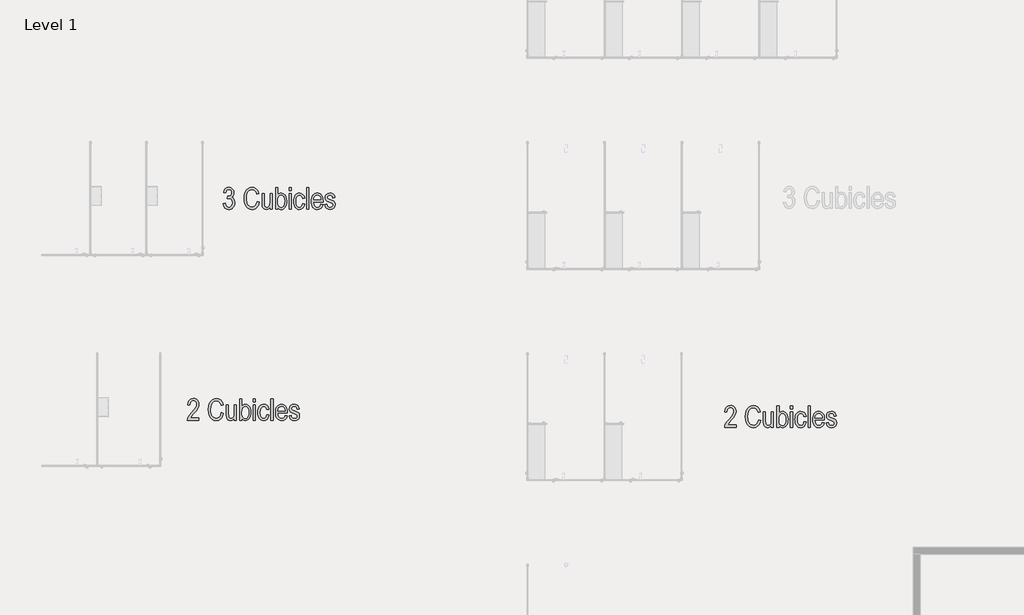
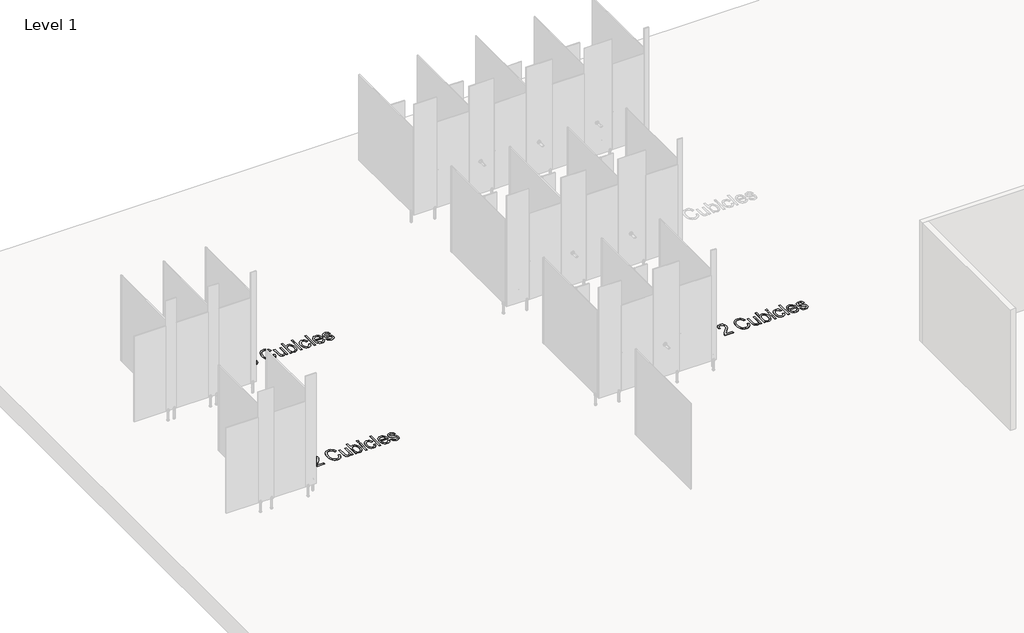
# One storey, part 14 of 21: 3 proxies.
"""IFC4 building model written with IfcOpenShell, lengths in millimetres."""

from ifc_helpers import new_model, si_unit, origin, origin_with_axes, place, context, project, spatial, polyline, outline, extrude, element, save

model = new_model("IFC4")

# Units and contexts
model_context = context("Model", 3, world=origin())
ifc_project = project(units=[si_unit("LENGTHUNIT", "METRE", prefix="MILLI")], contexts=[model_context])

# Site, building, storey
site = spatial("IfcSite", under=ifc_project)
building = spatial("IfcBuilding", under=site)
storey = spatial("IfcBuildingStorey", under=building, Name="Level 1", Elevation=0.0)

# Proxies
placement = place(None, origin())
element("IfcBuildingElementProxy", 1, Name="Arial Narrow-300mm", ObjectType="Arial Narrow-300mm", at=placement, inside=storey, context=model_context, shape_type="SweptSolid", body=[
    extrude(outline(polyline([(-24559.7465559, 26860.2162992), (-24559.7465559, 26825.7607897), (-24722.1796719, 26825.7607897), (-24719.1994241, 26849.0547907), (-24709.028127, 26874.9444913), (-24689.5507659, 26904.6027632), (-24658.6523263, 26939.2024782), (-24623.2066055, 26978.2725648), (-24602.546759, 27007.3444009), (-24592.5965771, 27030.5903333), (-24589.2798497, 27052.1827089), (-24592.7696237, 27073.9481312), (-24603.2389456, 27091.2527955), (-24618.8227572, 27102.5585096), (-24637.6560003, 27106.3270809), (-24657.6140465, 27102.1931889), (-24673.6497021, 27089.7915128), (-24684.2055473, 27069.6604199), (-24687.7241624, 27042.3382777), (-24717.2574562, 27047.2604933), (-24709.4511299, 27085.8787359), (-24702.1735571, 27101.0996302), (-24692.6463781, 27113.5950399), (-24681.1531968, 27123.3361239), (-24667.9776177, 27130.294041), (-24636.5792656, 27135.8603747), (-24618.7746887, 27134.2236419), (-24603.2774004, 27129.3134434), (-24590.0874007, 27121.1297792), (-24579.2046896, 27109.6726493), (-24564.6110893, 27081.706389), (-24559.7465559, 27050.1830588), (-24563.4670587, 27021.1977461), (-24574.6285672, 26993.4622146), (-24596.1728743, 26961.6889281), (-24631.041773, 26920.5903503), (-24665.3050084, 26881.1741704), (-24677.8797311, 26860.2162992), (-24559.7465559, 26860.2162992)])), origin_with_axes(), (0.0, 0.0, 1.0), 5.0),
    extrude(outline(polyline([(-24239.8025396, 26934.0495337), (-24210.2692458, 26924.2051024), (-24225.0935749, 26878.7419037), (-24235.5484763, 26860.9637645), (-24248.0318689, 26846.4879321), (-24262.2649553, 26835.266338), (-24277.9689382, 26827.2509136), (-24295.1438176, 26822.441659), (-24313.7895934, 26820.8385741), (-24345.3225373, 26825.0686031), (-24371.9332656, 26837.7586903), (-24393.8909619, 26859.80291), (-24411.4648099, 26892.0953364), (-24423.0012528, 26932.8862757), (-24426.8467338, 26980.4260341), (-24423.0108665, 27026.8506031), (-24411.5032647, 27065.5265279), (-24393.4487316, 27096.0692604), (-24369.9720703, 27118.0942527), (-24342.2557662, 27131.4188442), (-24311.4823048, 27135.8603747), (-24278.6034426, 27130.2363588), (-24250.7237056, 27113.3643111), (-24229.1505574, 27085.5903248), (-24215.1914615, 27047.2604933), (-24244.7247553, 27037.416062), (-24255.3094416, 27065.4111634), (-24270.1433844, 27085.4076645), (-24289.2265837, 27097.4055651), (-24312.5590395, 27101.4048653), (-24336.2375885, 27098.2131161), (-24356.5128869, 27088.6378685), (-24373.2215017, 27072.3041881), (-24386.2, 27048.8371405), (-24394.53508, 27018.2174983), (-24397.31344, 26980.4260341), (-24395.9002257, 26951.1138555), (-24391.6605829, 26925.70484), (-24384.5945117, 26904.1989877), (-24374.7020119, 26886.5962986), (-24362.4685756, 26872.9015795), (-24348.3796947, 26863.1196373), (-24332.4353692, 26857.250472), (-24314.6355992, 26855.2940835), (-24288.7843534, 26860.1778443), (-24266.7593612, 26874.8291268), (-24249.9642231, 26899.4017502), (-24239.8025396, 26934.0495337)])), origin_with_axes(), (0.0, 0.0, 1.0), 5.0),
    extrude(outline(polyline([(-24057.6805611, 26825.7607897), (-24057.6805611, 26855.6786316), (-24068.6401819, 26840.4601407), (-24081.3687239, 26829.5678159), (-24095.8661871, 26823.0208845), (-24112.1325716, 26820.8385741), (-24130.9562009, 26823.7322985), (-24146.8188099, 26832.4134718), (-24158.8167105, 26845.5265619), (-24166.0462147, 26861.7160367), (-24170.8915207, 26910.0537325), (-24170.8915207, 27047.2604933), (-24141.3582269, 27047.2604933), (-24141.3582269, 26922.66691), (-24138.0126585, 26876.2519548), (-24133.2346484, 26865.6864958), (-24125.591755, 26857.4475529), (-24115.8819155, 26852.1407891), (-24104.9030674, 26850.3718679), (-24085.2911145, 26854.9672176), (-24069.5246425, 26868.7532669), (-24060.6415815, 26891.2108757), (-24057.6805611, 26926.8969391), (-24057.6805611, 27047.2604933), (-24028.1472673, 27047.2604933), (-24028.1472673, 26825.7607897), (-24057.6805611, 26825.7607897)])), origin_with_axes(), (0.0, 0.0, 1.0), 5.0),
    extrude(outline(polyline([(-23949.3918172, 26825.7607897), (-23978.925111, 26825.7607897), (-23978.925111, 27130.9381591), (-23949.3918172, 27130.9381591), (-23949.3918172, 27023.6492402), (-23938.8263582, 27036.2047355), (-23926.9726631, 27045.1070239), (-23913.7538223, 27050.4137877), (-23899.0929261, 27052.1827089), (-23878.6061263, 27049.0005734), (-23860.0612944, 27039.4541669), (-23844.2467539, 27023.4473524), (-23831.9508285, 27000.8839929), (-23824.0483651, 26972.2928419), (-23821.4142107, 26938.2026531), (-23822.8778968, 26911.6640276), (-23827.2689554, 26888.3459924), (-23834.5873864, 26868.2485475), (-23844.8331897, 26851.3716929), (-23857.0305747, 26838.0134534), (-23870.2037504, 26828.4718538), (-23884.3527169, 26822.746894), (-23899.4774742, 26820.8385741), (-23914.4363952, 26822.8189968), (-23927.7802141, 26828.7602649), (-23939.4512489, 26838.6046961), (-23949.3918172, 26852.2946084), (-23949.3918172, 26825.7607897)]), holes=[polyline([(-23949.3918172, 26938.2026531), (-23947.81517, 26907.679148), (-23943.0852284, 26885.9425668), (-23935.4711761, 26870.65678), (-23925.2421967, 26859.4856578), (-23913.0712495, 26852.6503154), (-23899.6312935, 26850.3718679), (-23881.6248289, 26855.793996), (-23865.7526062, 26872.0603805), (-23854.6487799, 26899.1325665), (-23850.9475045, 26936.9720992), (-23854.5141881, 26975.3211581), (-23865.2142388, 27001.9222727), (-23881.1056889, 27017.4676295), (-23900.2465704, 27022.6494151), (-23918.3587858, 27017.227287), (-23934.3944414, 27000.9609025), (-23945.6424732, 26974.4270838), (-23949.3918172, 26938.2026531)])]), origin_with_axes(), (0.0, 0.0, 1.0), 5.0),
    extrude(outline(polyline([(-23786.9587012, 27086.6382184), (-23786.9587012, 27130.9381591), (-23757.4254074, 27130.9381591), (-23757.4254074, 27086.6382184), (-23786.9587012, 27086.6382184)])), origin_with_axes(), (0.0, 0.0, 1.0), 5.0),
    extrude(outline(polyline([(-23786.9587012, 26825.7607897), (-23786.9587012, 27047.2604933), (-23757.4254074, 27047.2604933), (-23757.4254074, 26825.7607897), (-23786.9587012, 26825.7607897)])), origin_with_axes(), (0.0, 0.0, 1.0), 5.0),
    extrude(outline(polyline([(-23594.9922914, 26904.5162399), (-23565.4589976, 26899.5940242), (-23574.5439464, 26865.7634055), (-23591.4929038, 26841.0273491), (-23614.4600388, 26825.8857678), (-23641.5995207, 26820.8385741), (-23658.5773192, 26822.667581), (-23673.9784705, 26828.1546016), (-23687.8029745, 26837.299636), (-23700.0508314, 26850.1026842), (-23710.077923, 26866.4916434), (-23717.2401313, 26886.3944108), (-23721.5374563, 26909.8109865), (-23722.969898, 26936.7413704), (-23721.4941946, 26963.7823118), (-23717.0670847, 26987.2229217), (-23709.6885681, 27007.0632001), (-23699.3586448, 27023.3031469), (-23686.7118193, 27035.9379553), (-23672.3825959, 27044.9628184), (-23656.3709745, 27050.3777363), (-23638.6769552, 27052.1827089), (-23612.3834791, 27047.8757702), (-23590.5699883, 27034.9549542), (-23574.5054916, 27013.4202608), (-23565.4589976, 26983.27169), (-23594.9922914, 26978.3494744), (-23601.2988802, 26997.778767), (-23610.9894923, 27011.6128847), (-23623.5065328, 27019.8902825), (-23638.2924071, 27022.6494151), (-23660.0866705, 27017.5445391), (-23677.7854966, 27002.2299112), (-23689.5238273, 26975.8018433), (-23693.4366041, 26937.3566473), (-23689.7930109, 26897.7866482), (-23678.8622313, 26870.9067362), (-23662.2401398, 26855.505585), (-23641.5226111, 26850.3718679), (-23624.9774293, 26853.6693678), (-23611.0279471, 26863.5618676), (-23600.693217, 26880.3954605), (-23594.9922914, 26904.5162399)])), origin_with_axes(), (0.0, 0.0, 1.0), 5.0),
    extrude(outline(polyline([(-23535.9257038, 26825.7607897), (-23535.9257038, 27130.9381591), (-23506.39241, 27130.9381591), (-23506.39241, 26825.7607897), (-23535.9257038, 26825.7607897)])), origin_with_axes(), (0.0, 0.0, 1.0), 5.0),
    extrude(outline(polyline([(-23334.1148628, 26894.6718086), (-23304.581569, 26889.749593), (-23315.791146, 26859.7932963), (-23333.4226762, 26838.220148), (-23356.7647457, 26825.1839676), (-23385.1059404, 26820.8385741), (-23403.597897, 26822.667581), (-23420.234409, 26828.1546016), (-23435.0154765, 26837.299636), (-23447.9410993, 26850.1026842), (-23458.4392624, 26866.3618584), (-23465.9379503, 26885.8752709), (-23470.437163, 26908.6429216), (-23471.9369006, 26934.6648106), (-23470.4299527, 26961.6144219), (-23465.9091092, 26985.1655894), (-23458.3743699, 27005.3183131), (-23447.8257349, 27022.072593), (-23434.9698114, 27035.2457687), (-23420.5132064, 27044.6551799), (-23404.4559199, 27050.3008267), (-23386.797952, 27052.1827089), (-23369.8802392, 27050.3657192), (-23354.428616, 27044.9147499), (-23340.4430824, 27035.8298011), (-23327.9236384, 27023.1108728), (-23317.6105392, 27006.9502391), (-23310.2440397, 26987.5401739), (-23305.82414, 26964.8806773), (-23304.3508401, 26938.9717493), (-23304.581569, 26929.127318), (-23442.4036068, 26929.127318), (-23436.8565005, 26894.8640827), (-23424.2144818, 26870.2145497), (-23406.246472, 26855.3325383), (-23384.7213923, 26850.3718679), (-23367.9166405, 26853.1406142), (-23353.8806349, 26861.4468531), (-23342.6133757, 26875.2905845), (-23334.1148628, 26894.6718086)]), holes=[polyline([(-23440.4039567, 26958.6606119), (-23334.1148628, 26958.6606119), (-23338.4218015, 26983.9254218), (-23347.0356788, 27001.8838179), (-23364.6864365, 27017.4580158), (-23386.5672231, 27022.6494151), (-23406.6598612, 27018.323249), (-23423.56075, 27005.3447508), (-23435.4240588, 26985.0213839), (-23440.4039567, 26958.6606119)])]), origin_with_axes(), (0.0, 0.0, 1.0), 5.0),
    extrude(outline(polyline([(-23279.9704908, 26889.749593), (-23250.437197, 26894.6718086), (-23245.3996169, 26875.0983105), (-23235.6705501, 26861.2930338), (-23221.6345446, 26853.1021594), (-23203.6761485, 26850.3718679), (-23185.9484812, 26852.7945209), (-23172.7584815, 26860.0624799), (-23164.567607, 26871.0413281), (-23161.8373156, 26884.5966485), (-23164.0100123, 26895.9984995), (-23170.5281025, 26904.5162399), (-23201.138131, 26917.2063271), (-23249.0528238, 26936.5106415), (-23260.0412857, 26945.6724999), (-23268.2417739, 26957.4685128), (-23273.3466498, 26971.4949046), (-23275.0482752, 26987.3478999), (-23270.5394487, 27013.477943), (-23257.0129694, 27034.185858), (-23235.5071171, 27047.6834962), (-23207.0601717, 27052.1827089), (-23188.1980876, 27050.308037), (-23171.7586565, 27044.684021), (-23158.3090868, 27035.8874833), (-23148.416587, 27024.495246), (-23141.5620172, 27009.0748673), (-23137.2262374, 26988.1939057), (-23166.7595312, 26983.27169), (-23170.773252, 27000.4994448), (-23178.6612948, 27012.8049838), (-23190.4236597, 27020.1883073), (-23206.0603467, 27022.6494151), (-23223.4419206, 27020.553628), (-23235.7474597, 27014.2662666), (-23243.0731009, 27004.7102464), (-23245.5149814, 26992.8084828), (-23243.1500106, 26981.3297221), (-23236.0550982, 26972.581253), (-23202.2917753, 26958.6606119), (-23154.0309892, 26939.3947522), (-23144.8979719, 26930.9923763), (-23138.0337884, 26920.0135282), (-23133.7364634, 26906.6024133), (-23132.3040218, 26890.9032373), (-23137.2358511, 26862.58127), (-23152.0313391, 26840.2197981), (-23175.3445675, 26825.6838801), (-23205.8296178, 26820.8385741), (-23234.4303825, 26825.1455128), (-23256.3207829, 26838.0663288), (-23271.500819, 26859.6010222), (-23279.9704908, 26889.749593)])), origin_with_axes(), (0.0, 0.0, 1.0), 5.0),
])
element("IfcBuildingElementProxy", 2, Name="Arial Narrow-300mm", ObjectType="Arial Narrow-300mm", at=placement, inside=storey, context=model_context, shape_type="SweptSolid", body=[
    extrude(outline(polyline([(-24214.1796719, 29904.5162399), (-24184.6463781, 29909.4384555), (-24177.830263, 29883.5968234), (-24167.2263493, 29865.1385148), (-24152.8346368, 29854.0635296), (-24134.6551255, 29850.3718679), (-24114.4759641, 29854.9960587), (-24097.1616861, 29868.8686313), (-24085.2503088, 29890.1053), (-24081.2798497, 29916.821779), (-24084.9811251, 29941.8654737), (-24096.0849514, 29961.467813), (-24112.5724511, 29974.129059), (-24132.4247466, 29978.3494744), (-24155.1130842, 29974.196355), (-24150.1908686, 30007.8827682), (-24145.1148337, 30007.4213105), (-24123.3686389, 30010.9206982), (-24106.1216568, 30021.4188612), (-24094.8736249, 30037.7621553), (-24091.124281, 30058.7969362), (-24094.1718247, 30078.1493191), (-24103.3144556, 30093.2909004), (-24116.8409349, 30103.0680358), (-24133.0400235, 30106.3270809), (-24149.8351616, 30103.2699235), (-24163.7654164, 30094.0984514), (-24174.0040095, 30078.735755), (-24179.7241624, 30057.1049246), (-24209.2574562, 30062.0271402), (-24199.8552553, 30094.0888377), (-24183.1850953, 30117.209792), (-24160.7467139, 30131.197729), (-24134.0398486, 30135.8603747), (-24106.0928156, 30130.1786766), (-24082.7026777, 30113.1335822), (-24066.8689098, 30087.4746105), (-24061.5909872, 30055.9512803), (-24063.7252291, 30036.1470533), (-24070.1279549, 30018.7270245), (-24080.3569343, 30004.2487887), (-24093.9699369, 29993.2699405), (-24081.5971019, 29987.6843794), (-24071.5507829, 29979.3877543), (-24057.2071389, 29953.5461222), (-24051.7465559, 29917.3601463), (-24053.2823449, 29897.096865), (-24057.8897118, 29878.7611311), (-24065.5686566, 29862.3529445), (-24076.3191793, 29847.8723053), (-24089.2087508, 29836.0450479), (-24103.3048419, 29827.5970069), (-24118.6074528, 29822.5281823), (-24135.1165832, 29820.8385741), (-24164.4672167, 29826.5106585), (-24188.9917715, 29843.5269118), (-24206.3445044, 29870.1184126), (-24214.1796719, 29904.5162399)])), origin_with_axes(), (0.0, 0.0, 1.0), 5.0),
    extrude(outline(polyline([(-23731.8025396, 29934.0495337), (-23702.2692458, 29924.2051024), (-23717.0935749, 29878.7419037), (-23727.5484763, 29860.9637645), (-23740.0318689, 29846.4879321), (-23754.2649553, 29835.266338), (-23769.9689382, 29827.2509136), (-23787.1438176, 29822.441659), (-23805.7895934, 29820.8385741), (-23837.3225373, 29825.0686031), (-23863.9332656, 29837.7586903), (-23885.8909619, 29859.80291), (-23903.4648099, 29892.0953364), (-23915.0012528, 29932.8862757), (-23918.8467338, 29980.4260341), (-23915.0108665, 30026.8506031), (-23903.5032647, 30065.5265279), (-23885.4487316, 30096.0692604), (-23861.9720703, 30118.0942527), (-23834.2557662, 30131.4188442), (-23803.4823048, 30135.8603747), (-23770.6034426, 30130.2363588), (-23742.7237056, 30113.3643111), (-23721.1505574, 30085.5903248), (-23707.1914615, 30047.2604933), (-23736.7247553, 30037.416062), (-23747.3094416, 30065.4111634), (-23762.1433844, 30085.4076645), (-23781.2265837, 30097.4055651), (-23804.5590395, 30101.4048653), (-23828.2375885, 30098.2131161), (-23848.5128869, 30088.6378685), (-23865.2215017, 30072.3041881), (-23878.2, 30048.8371405), (-23886.53508, 30018.2174983), (-23889.31344, 29980.4260341), (-23887.9002257, 29951.1138555), (-23883.6605829, 29925.70484), (-23876.5945117, 29904.1989877), (-23866.7020119, 29886.5962986), (-23854.4685756, 29872.9015795), (-23840.3796947, 29863.1196373), (-23824.4353692, 29857.250472), (-23806.6355992, 29855.2940835), (-23780.7843534, 29860.1778443), (-23758.7593612, 29874.8291268), (-23741.9642231, 29899.4017502), (-23731.8025396, 29934.0495337)])), origin_with_axes(), (0.0, 0.0, 1.0), 5.0),
    extrude(outline(polyline([(-23549.6805611, 29825.7607897), (-23549.6805611, 29855.6786316), (-23560.6401819, 29840.4601407), (-23573.3687239, 29829.5678159), (-23587.8661871, 29823.0208845), (-23604.1325716, 29820.8385741), (-23622.9562009, 29823.7322985), (-23638.8188099, 29832.4134718), (-23650.8167105, 29845.5265619), (-23658.0462147, 29861.7160367), (-23662.8915207, 29910.0537325), (-23662.8915207, 30047.2604933), (-23633.3582269, 30047.2604933), (-23633.3582269, 29922.66691), (-23630.0126585, 29876.2519548), (-23625.2346484, 29865.6864958), (-23617.591755, 29857.4475529), (-23607.8819155, 29852.1407891), (-23596.9030674, 29850.3718679), (-23577.2911145, 29854.9672176), (-23561.5246425, 29868.7532669), (-23552.6415815, 29891.2108757), (-23549.6805611, 29926.8969391), (-23549.6805611, 30047.2604933), (-23520.1472673, 30047.2604933), (-23520.1472673, 29825.7607897), (-23549.6805611, 29825.7607897)])), origin_with_axes(), (0.0, 0.0, 1.0), 5.0),
    extrude(outline(polyline([(-23441.3918172, 29825.7607897), (-23470.925111, 29825.7607897), (-23470.925111, 30130.9381591), (-23441.3918172, 30130.9381591), (-23441.3918172, 30023.6492402), (-23430.8263582, 30036.2047355), (-23418.9726631, 30045.1070239), (-23405.7538223, 30050.4137877), (-23391.0929261, 30052.1827089), (-23370.6061263, 30049.0005734), (-23352.0612944, 30039.4541669), (-23336.2467539, 30023.4473524), (-23323.9508285, 30000.8839929), (-23316.0483651, 29972.2928419), (-23313.4142107, 29938.2026531), (-23314.8778968, 29911.6640276), (-23319.2689554, 29888.3459924), (-23326.5873864, 29868.2485475), (-23336.8331897, 29851.3716929), (-23349.0305747, 29838.0134534), (-23362.2037504, 29828.4718538), (-23376.3527169, 29822.746894), (-23391.4774742, 29820.8385741), (-23406.4363952, 29822.8189968), (-23419.7802141, 29828.7602649), (-23431.4512489, 29838.6046961), (-23441.3918172, 29852.2946084), (-23441.3918172, 29825.7607897)]), holes=[polyline([(-23441.3918172, 29938.2026531), (-23439.81517, 29907.679148), (-23435.0852284, 29885.9425668), (-23427.4711761, 29870.65678), (-23417.2421967, 29859.4856578), (-23405.0712495, 29852.6503154), (-23391.6312935, 29850.3718679), (-23373.6248289, 29855.793996), (-23357.7526062, 29872.0603805), (-23346.6487799, 29899.1325665), (-23342.9475045, 29936.9720992), (-23346.5141881, 29975.3211581), (-23357.2142388, 30001.9222727), (-23373.1056889, 30017.4676295), (-23392.2465704, 30022.6494151), (-23410.3587858, 30017.227287), (-23426.3944414, 30000.9609025), (-23437.6424732, 29974.4270838), (-23441.3918172, 29938.2026531)])]), origin_with_axes(), (0.0, 0.0, 1.0), 5.0),
    extrude(outline(polyline([(-23278.9587012, 30086.6382184), (-23278.9587012, 30130.9381591), (-23249.4254074, 30130.9381591), (-23249.4254074, 30086.6382184), (-23278.9587012, 30086.6382184)])), origin_with_axes(), (0.0, 0.0, 1.0), 5.0),
    extrude(outline(polyline([(-23278.9587012, 29825.7607897), (-23278.9587012, 30047.2604933), (-23249.4254074, 30047.2604933), (-23249.4254074, 29825.7607897), (-23278.9587012, 29825.7607897)])), origin_with_axes(), (0.0, 0.0, 1.0), 5.0),
    extrude(outline(polyline([(-23086.9922914, 29904.5162399), (-23057.4589976, 29899.5940242), (-23066.5439464, 29865.7634055), (-23083.4929038, 29841.0273491), (-23106.4600388, 29825.8857678), (-23133.5995207, 29820.8385741), (-23150.5773192, 29822.667581), (-23165.9784705, 29828.1546016), (-23179.8029745, 29837.299636), (-23192.0508314, 29850.1026842), (-23202.077923, 29866.4916434), (-23209.2401313, 29886.3944108), (-23213.5374563, 29909.8109865), (-23214.969898, 29936.7413704), (-23213.4941946, 29963.7823118), (-23209.0670847, 29987.2229217), (-23201.6885681, 30007.0632001), (-23191.3586448, 30023.3031469), (-23178.7118193, 30035.9379553), (-23164.3825959, 30044.9628184), (-23148.3709745, 30050.3777363), (-23130.6769552, 30052.1827089), (-23104.3834791, 30047.8757702), (-23082.5699883, 30034.9549542), (-23066.5054916, 30013.4202608), (-23057.4589976, 29983.27169), (-23086.9922914, 29978.3494744), (-23093.2988802, 29997.778767), (-23102.9894923, 30011.6128847), (-23115.5065328, 30019.8902825), (-23130.2924071, 30022.6494151), (-23152.0866705, 30017.5445391), (-23169.7854966, 30002.2299112), (-23181.5238273, 29975.8018433), (-23185.4366041, 29937.3566473), (-23181.7930109, 29897.7866482), (-23170.8622313, 29870.9067362), (-23154.2401398, 29855.505585), (-23133.5226111, 29850.3718679), (-23116.9774293, 29853.6693678), (-23103.0279471, 29863.5618676), (-23092.693217, 29880.3954605), (-23086.9922914, 29904.5162399)])), origin_with_axes(), (0.0, 0.0, 1.0), 5.0),
    extrude(outline(polyline([(-23027.9257038, 29825.7607897), (-23027.9257038, 30130.9381591), (-22998.39241, 30130.9381591), (-22998.39241, 29825.7607897), (-23027.9257038, 29825.7607897)])), origin_with_axes(), (0.0, 0.0, 1.0), 5.0),
    extrude(outline(polyline([(-22826.1148628, 29894.6718086), (-22796.581569, 29889.749593), (-22807.791146, 29859.7932963), (-22825.4226762, 29838.220148), (-22848.7647457, 29825.1839676), (-22877.1059404, 29820.8385741), (-22895.597897, 29822.667581), (-22912.234409, 29828.1546016), (-22927.0154765, 29837.299636), (-22939.9410993, 29850.1026842), (-22950.4392624, 29866.3618584), (-22957.9379503, 29885.8752709), (-22962.437163, 29908.6429216), (-22963.9369006, 29934.6648106), (-22962.4299527, 29961.6144219), (-22957.9091092, 29985.1655894), (-22950.3743699, 30005.3183131), (-22939.8257349, 30022.072593), (-22926.9698114, 30035.2457687), (-22912.5132064, 30044.6551799), (-22896.4559199, 30050.3008267), (-22878.797952, 30052.1827089), (-22861.8802392, 30050.3657192), (-22846.428616, 30044.9147499), (-22832.4430824, 30035.8298011), (-22819.9236384, 30023.1108728), (-22809.6105392, 30006.9502391), (-22802.2440397, 29987.5401739), (-22797.82414, 29964.8806773), (-22796.3508401, 29938.9717493), (-22796.581569, 29929.127318), (-22934.4036068, 29929.127318), (-22928.8565005, 29894.8640827), (-22916.2144818, 29870.2145497), (-22898.246472, 29855.3325383), (-22876.7213923, 29850.3718679), (-22859.9166405, 29853.1406142), (-22845.8806349, 29861.4468531), (-22834.6133757, 29875.2905845), (-22826.1148628, 29894.6718086)]), holes=[polyline([(-22932.4039567, 29958.6606119), (-22826.1148628, 29958.6606119), (-22830.4218015, 29983.9254218), (-22839.0356788, 30001.8838179), (-22856.6864365, 30017.4580158), (-22878.5672231, 30022.6494151), (-22898.6598612, 30018.323249), (-22915.56075, 30005.3447508), (-22927.4240588, 29985.0213839), (-22932.4039567, 29958.6606119)])]), origin_with_axes(), (0.0, 0.0, 1.0), 5.0),
    extrude(outline(polyline([(-22771.9704908, 29889.749593), (-22742.437197, 29894.6718086), (-22737.3996169, 29875.0983105), (-22727.6705501, 29861.2930338), (-22713.6345446, 29853.1021594), (-22695.6761485, 29850.3718679), (-22677.9484812, 29852.7945209), (-22664.7584815, 29860.0624799), (-22656.567607, 29871.0413281), (-22653.8373156, 29884.5966485), (-22656.0100123, 29895.9984995), (-22662.5281025, 29904.5162399), (-22693.138131, 29917.2063271), (-22741.0528238, 29936.5106415), (-22752.0412857, 29945.6724999), (-22760.2417739, 29957.4685128), (-22765.3466498, 29971.4949046), (-22767.0482752, 29987.3478999), (-22762.5394487, 30013.477943), (-22749.0129694, 30034.185858), (-22727.5071171, 30047.6834962), (-22699.0601717, 30052.1827089), (-22680.1980876, 30050.308037), (-22663.7586565, 30044.684021), (-22650.3090868, 30035.8874833), (-22640.416587, 30024.495246), (-22633.5620172, 30009.0748673), (-22629.2262374, 29988.1939057), (-22658.7595312, 29983.27169), (-22662.773252, 30000.4994448), (-22670.6612948, 30012.8049838), (-22682.4236597, 30020.1883073), (-22698.0603467, 30022.6494151), (-22715.4419206, 30020.553628), (-22727.7474597, 30014.2662666), (-22735.0731009, 30004.7102464), (-22737.5149814, 29992.8084828), (-22735.1500106, 29981.3297221), (-22728.0550982, 29972.581253), (-22694.2917753, 29958.6606119), (-22646.0309892, 29939.3947522), (-22636.8979719, 29930.9923763), (-22630.0337884, 29920.0135282), (-22625.7364634, 29906.6024133), (-22624.3040218, 29890.9032373), (-22629.2358511, 29862.58127), (-22644.0313391, 29840.2197981), (-22667.3445675, 29825.6838801), (-22697.8296178, 29820.8385741), (-22726.4303825, 29825.1455128), (-22748.3207829, 29838.0663288), (-22763.500819, 29859.6010222), (-22771.9704908, 29889.749593)])), origin_with_axes(), (0.0, 0.0, 1.0), 5.0),
])
element("IfcBuildingElementProxy", 3, Name="Arial Narrow-300mm", ObjectType="Arial Narrow-300mm", at=placement, inside=storey, context=model_context, shape_type="SweptSolid", body=[
    extrude(outline(polyline([(-16934.7465559, 26760.2162992), (-16934.7465559, 26725.7607897), (-17097.1796719, 26725.7607897), (-17094.1994241, 26749.0547907), (-17084.028127, 26774.9444913), (-17064.5507659, 26804.6027632), (-17033.6523263, 26839.2024782), (-16998.2066055, 26878.2725648), (-16977.546759, 26907.3444009), (-16967.5965771, 26930.5903333), (-16964.2798497, 26952.1827089), (-16967.7696237, 26973.9481312), (-16978.2389456, 26991.2527955), (-16993.8227572, 27002.5585096), (-17012.6560003, 27006.3270809), (-17032.6140465, 27002.1931889), (-17048.6497021, 26989.7915128), (-17059.2055473, 26969.6604199), (-17062.7241624, 26942.3382777), (-17092.2574562, 26947.2604933), (-17084.4511299, 26985.8787359), (-17077.1735571, 27001.0996302), (-17067.6463781, 27013.5950399), (-17056.1531968, 27023.3361239), (-17042.9776177, 27030.294041), (-17011.5792656, 27035.8603747), (-16993.7746887, 27034.2236419), (-16978.2774004, 27029.3134434), (-16965.0874007, 27021.1297792), (-16954.2046896, 27009.6726493), (-16939.6110893, 26981.706389), (-16934.7465559, 26950.1830588), (-16938.4670587, 26921.1977461), (-16949.6285672, 26893.4622146), (-16971.1728743, 26861.6889281), (-17006.041773, 26820.5903503), (-17040.3050084, 26781.1741704), (-17052.8797311, 26760.2162992), (-16934.7465559, 26760.2162992)])), origin_with_axes(), (0.0, 0.0, 1.0), 5.0),
    extrude(outline(polyline([(-16614.8025396, 26834.0495337), (-16585.2692458, 26824.2051024), (-16600.0935749, 26778.7419037), (-16610.5484763, 26760.9637645), (-16623.0318689, 26746.4879321), (-16637.2649553, 26735.266338), (-16652.9689382, 26727.2509136), (-16670.1438176, 26722.441659), (-16688.7895934, 26720.8385741), (-16720.3225373, 26725.0686031), (-16746.9332656, 26737.7586903), (-16768.8909619, 26759.80291), (-16786.4648099, 26792.0953364), (-16798.0012528, 26832.8862757), (-16801.8467338, 26880.4260341), (-16798.0108665, 26926.8506031), (-16786.5032647, 26965.5265279), (-16768.4487316, 26996.0692604), (-16744.9720703, 27018.0942527), (-16717.2557662, 27031.4188442), (-16686.4823048, 27035.8603747), (-16653.6034426, 27030.2363588), (-16625.7237056, 27013.3643111), (-16604.1505574, 26985.5903248), (-16590.1914615, 26947.2604933), (-16619.7247553, 26937.416062), (-16630.3094416, 26965.4111634), (-16645.1433844, 26985.4076645), (-16664.2265837, 26997.4055651), (-16687.5590395, 27001.4048653), (-16711.2375885, 26998.2131161), (-16731.5128869, 26988.6378685), (-16748.2215017, 26972.3041881), (-16761.2, 26948.8371405), (-16769.53508, 26918.2174983), (-16772.31344, 26880.4260341), (-16770.9002257, 26851.1138555), (-16766.6605829, 26825.70484), (-16759.5945117, 26804.1989877), (-16749.7020119, 26786.5962986), (-16737.4685756, 26772.9015795), (-16723.3796947, 26763.1196373), (-16707.4353692, 26757.250472), (-16689.6355992, 26755.2940835), (-16663.7843534, 26760.1778443), (-16641.7593612, 26774.8291268), (-16624.9642231, 26799.4017502), (-16614.8025396, 26834.0495337)])), origin_with_axes(), (0.0, 0.0, 1.0), 5.0),
    extrude(outline(polyline([(-16432.6805611, 26725.7607897), (-16432.6805611, 26755.6786316), (-16443.6401819, 26740.4601407), (-16456.3687239, 26729.5678159), (-16470.8661871, 26723.0208845), (-16487.1325716, 26720.8385741), (-16505.9562009, 26723.7322985), (-16521.8188099, 26732.4134718), (-16533.8167105, 26745.5265619), (-16541.0462147, 26761.7160367), (-16545.8915207, 26810.0537325), (-16545.8915207, 26947.2604933), (-16516.3582269, 26947.2604933), (-16516.3582269, 26822.66691), (-16513.0126585, 26776.2519548), (-16508.2346484, 26765.6864958), (-16500.591755, 26757.4475529), (-16490.8819155, 26752.1407891), (-16479.9030674, 26750.3718679), (-16460.2911145, 26754.9672176), (-16444.5246425, 26768.7532669), (-16435.6415815, 26791.2108757), (-16432.6805611, 26826.8969391), (-16432.6805611, 26947.2604933), (-16403.1472673, 26947.2604933), (-16403.1472673, 26725.7607897), (-16432.6805611, 26725.7607897)])), origin_with_axes(), (0.0, 0.0, 1.0), 5.0),
    extrude(outline(polyline([(-16324.3918172, 26725.7607897), (-16353.925111, 26725.7607897), (-16353.925111, 27030.9381591), (-16324.3918172, 27030.9381591), (-16324.3918172, 26923.6492402), (-16313.8263582, 26936.2047355), (-16301.9726631, 26945.1070239), (-16288.7538223, 26950.4137877), (-16274.0929261, 26952.1827089), (-16253.6061263, 26949.0005734), (-16235.0612944, 26939.4541669), (-16219.2467539, 26923.4473524), (-16206.9508285, 26900.8839929), (-16199.0483651, 26872.2928419), (-16196.4142107, 26838.2026531), (-16197.8778968, 26811.6640276), (-16202.2689554, 26788.3459924), (-16209.5873864, 26768.2485475), (-16219.8331897, 26751.3716929), (-16232.0305747, 26738.0134534), (-16245.2037504, 26728.4718538), (-16259.3527169, 26722.746894), (-16274.4774742, 26720.8385741), (-16289.4363952, 26722.8189968), (-16302.7802141, 26728.7602649), (-16314.4512489, 26738.6046961), (-16324.3918172, 26752.2946084), (-16324.3918172, 26725.7607897)]), holes=[polyline([(-16324.3918172, 26838.2026531), (-16322.81517, 26807.679148), (-16318.0852284, 26785.9425668), (-16310.4711761, 26770.65678), (-16300.2421967, 26759.4856578), (-16288.0712495, 26752.6503154), (-16274.6312935, 26750.3718679), (-16256.6248289, 26755.793996), (-16240.7526062, 26772.0603805), (-16229.6487799, 26799.1325665), (-16225.9475045, 26836.9720992), (-16229.5141881, 26875.3211581), (-16240.2142388, 26901.9222727), (-16256.1056889, 26917.4676295), (-16275.2465704, 26922.6494151), (-16293.3587858, 26917.227287), (-16309.3944414, 26900.9609025), (-16320.6424732, 26874.4270838), (-16324.3918172, 26838.2026531)])]), origin_with_axes(), (0.0, 0.0, 1.0), 5.0),
    extrude(outline(polyline([(-16161.9587012, 26986.6382184), (-16161.9587012, 27030.9381591), (-16132.4254074, 27030.9381591), (-16132.4254074, 26986.6382184), (-16161.9587012, 26986.6382184)])), origin_with_axes(), (0.0, 0.0, 1.0), 5.0),
    extrude(outline(polyline([(-16161.9587012, 26725.7607897), (-16161.9587012, 26947.2604933), (-16132.4254074, 26947.2604933), (-16132.4254074, 26725.7607897), (-16161.9587012, 26725.7607897)])), origin_with_axes(), (0.0, 0.0, 1.0), 5.0),
    extrude(outline(polyline([(-15969.9922914, 26804.5162399), (-15940.4589976, 26799.5940242), (-15949.5439464, 26765.7634055), (-15966.4929038, 26741.0273491), (-15989.4600388, 26725.8857678), (-16016.5995207, 26720.8385741), (-16033.5773192, 26722.667581), (-16048.9784705, 26728.1546016), (-16062.8029745, 26737.299636), (-16075.0508314, 26750.1026842), (-16085.077923, 26766.4916434), (-16092.2401313, 26786.3944108), (-16096.5374563, 26809.8109865), (-16097.969898, 26836.7413704), (-16096.4941946, 26863.7823118), (-16092.0670847, 26887.2229217), (-16084.6885681, 26907.0632001), (-16074.3586448, 26923.3031469), (-16061.7118193, 26935.9379553), (-16047.3825959, 26944.9628184), (-16031.3709745, 26950.3777363), (-16013.6769552, 26952.1827089), (-15987.3834791, 26947.8757702), (-15965.5699883, 26934.9549542), (-15949.5054916, 26913.4202608), (-15940.4589976, 26883.27169), (-15969.9922914, 26878.3494744), (-15976.2988802, 26897.778767), (-15985.9894923, 26911.6128847), (-15998.5065328, 26919.8902825), (-16013.2924071, 26922.6494151), (-16035.0866705, 26917.5445391), (-16052.7854966, 26902.2299112), (-16064.5238273, 26875.8018433), (-16068.4366041, 26837.3566473), (-16064.7930109, 26797.7866482), (-16053.8622313, 26770.9067362), (-16037.2401398, 26755.505585), (-16016.5226111, 26750.3718679), (-15999.9774293, 26753.6693678), (-15986.0279471, 26763.5618676), (-15975.693217, 26780.3954605), (-15969.9922914, 26804.5162399)])), origin_with_axes(), (0.0, 0.0, 1.0), 5.0),
    extrude(outline(polyline([(-15910.9257038, 26725.7607897), (-15910.9257038, 27030.9381591), (-15881.39241, 27030.9381591), (-15881.39241, 26725.7607897), (-15910.9257038, 26725.7607897)])), origin_with_axes(), (0.0, 0.0, 1.0), 5.0),
    extrude(outline(polyline([(-15709.1148628, 26794.6718086), (-15679.581569, 26789.749593), (-15690.791146, 26759.7932963), (-15708.4226762, 26738.220148), (-15731.7647457, 26725.1839676), (-15760.1059404, 26720.8385741), (-15778.597897, 26722.667581), (-15795.234409, 26728.1546016), (-15810.0154765, 26737.299636), (-15822.9410993, 26750.1026842), (-15833.4392624, 26766.3618584), (-15840.9379503, 26785.8752709), (-15845.437163, 26808.6429216), (-15846.9369006, 26834.6648106), (-15845.4299527, 26861.6144219), (-15840.9091092, 26885.1655894), (-15833.3743699, 26905.3183131), (-15822.8257349, 26922.072593), (-15809.9698114, 26935.2457687), (-15795.5132064, 26944.6551799), (-15779.4559199, 26950.3008267), (-15761.797952, 26952.1827089), (-15744.8802392, 26950.3657192), (-15729.428616, 26944.9147499), (-15715.4430824, 26935.8298011), (-15702.9236384, 26923.1108728), (-15692.6105392, 26906.9502391), (-15685.2440397, 26887.5401739), (-15680.82414, 26864.8806773), (-15679.3508401, 26838.9717493), (-15679.581569, 26829.127318), (-15817.4036068, 26829.127318), (-15811.8565005, 26794.8640827), (-15799.2144818, 26770.2145497), (-15781.246472, 26755.3325383), (-15759.7213923, 26750.3718679), (-15742.9166405, 26753.1406142), (-15728.8806349, 26761.4468531), (-15717.6133757, 26775.2905845), (-15709.1148628, 26794.6718086)]), holes=[polyline([(-15815.4039567, 26858.6606119), (-15709.1148628, 26858.6606119), (-15713.4218015, 26883.9254218), (-15722.0356788, 26901.8838179), (-15739.6864365, 26917.4580158), (-15761.5672231, 26922.6494151), (-15781.6598612, 26918.323249), (-15798.56075, 26905.3447508), (-15810.4240588, 26885.0213839), (-15815.4039567, 26858.6606119)])]), origin_with_axes(), (0.0, 0.0, 1.0), 5.0),
    extrude(outline(polyline([(-15654.9704908, 26789.749593), (-15625.437197, 26794.6718086), (-15620.3996169, 26775.0983105), (-15610.6705501, 26761.2930338), (-15596.6345446, 26753.1021594), (-15578.6761485, 26750.3718679), (-15560.9484812, 26752.7945209), (-15547.7584815, 26760.0624799), (-15539.567607, 26771.0413281), (-15536.8373156, 26784.5966485), (-15539.0100123, 26795.9984995), (-15545.5281025, 26804.5162399), (-15576.138131, 26817.2063271), (-15624.0528238, 26836.5106415), (-15635.0412857, 26845.6724999), (-15643.2417739, 26857.4685128), (-15648.3466498, 26871.4949046), (-15650.0482752, 26887.3478999), (-15645.5394487, 26913.477943), (-15632.0129694, 26934.185858), (-15610.5071171, 26947.6834962), (-15582.0601717, 26952.1827089), (-15563.1980876, 26950.308037), (-15546.7586565, 26944.684021), (-15533.3090868, 26935.8874833), (-15523.416587, 26924.495246), (-15516.5620172, 26909.0748673), (-15512.2262374, 26888.1939057), (-15541.7595312, 26883.27169), (-15545.773252, 26900.4994448), (-15553.6612948, 26912.8049838), (-15565.4236597, 26920.1883073), (-15581.0603467, 26922.6494151), (-15598.4419206, 26920.553628), (-15610.7474597, 26914.2662666), (-15618.0731009, 26904.7102464), (-15620.5149814, 26892.8084828), (-15618.1500106, 26881.3297221), (-15611.0550982, 26872.581253), (-15577.2917753, 26858.6606119), (-15529.0309892, 26839.3947522), (-15519.8979719, 26830.9923763), (-15513.0337884, 26820.0135282), (-15508.7364634, 26806.6024133), (-15507.3040218, 26790.9032373), (-15512.2358511, 26762.58127), (-15527.0313391, 26740.2197981), (-15550.3445675, 26725.6838801), (-15580.8296178, 26720.8385741), (-15609.4303825, 26725.1455128), (-15631.3207829, 26738.0663288), (-15646.500819, 26759.6010222), (-15654.9704908, 26789.749593)])), origin_with_axes(), (0.0, 0.0, 1.0), 5.0),
])

save(model, "model.ifc")
